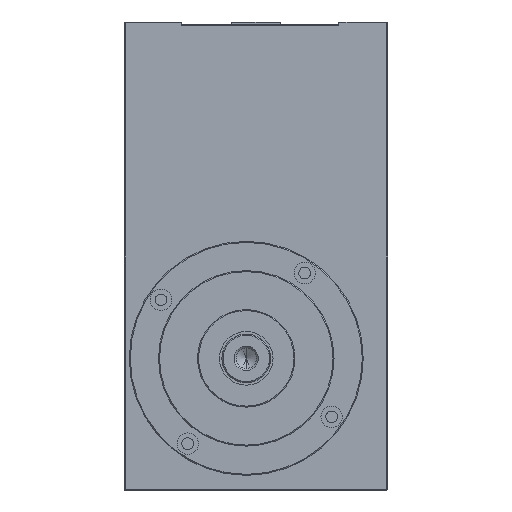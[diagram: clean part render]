
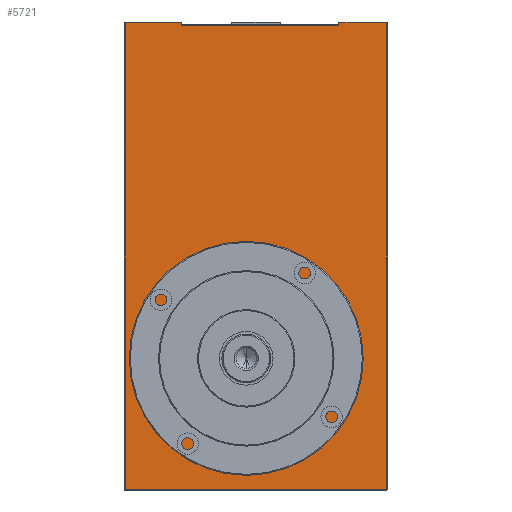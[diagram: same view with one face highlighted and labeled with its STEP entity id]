
A CAD part, left-side view. The second image highlights one B-rep face of the part: STEP entity #5721.
In plain terms, the highlighted planar face has unit normal (-1, 0, 0).
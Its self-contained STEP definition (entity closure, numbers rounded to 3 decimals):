
#354 = LINE ( 'NONE', #4729, #5265 ) ;
#549 = DIRECTION ( 'NONE',  ( 0., 1., 0. ) ) ;
#614 = CARTESIAN_POINT ( 'NONE',  ( 0., 42.3, -0.5 ) ) ;
#715 = VECTOR ( 'NONE', #2724, 1000. ) ;
#914 = DIRECTION ( 'NONE',  ( 0., 0., -1. ) ) ;
#1640 = CARTESIAN_POINT ( 'NONE',  ( 0., 54., -0.2 ) ) ;
#1670 = ORIENTED_EDGE ( 'NONE', *, *, #16651, .T. ) ;
#2109 = ORIENTED_EDGE ( 'NONE', *, *, #13955, .T. ) ;
#2201 = VECTOR ( 'NONE', #549, 1000. ) ;
#2498 = EDGE_CURVE ( 'NONE', #14779, #15254, #12292, .T. ) ;
#2621 = AXIS2_PLACEMENT_3D ( 'NONE', #16761, #6244, #914 ) ;
#2724 = DIRECTION ( 'NONE',  ( 0., 0., 1. ) ) ;
#2748 = DIRECTION ( 'NONE',  ( 0., 0., 1. ) ) ;
#2810 = AXIS2_PLACEMENT_3D ( 'NONE', #14442, #13129, #5005 ) ;
#2889 = CIRCLE ( 'NONE', #12197, 16.7 ) ;
#3366 = VERTEX_POINT ( 'NONE', #3799 ) ;
#3377 = LINE ( 'NONE', #7748, #715 ) ;
#3799 = CARTESIAN_POINT ( 'NONE',  ( 0., 42.3, -0.7 ) ) ;
#3928 = DIRECTION ( 'NONE',  ( 0., 0., -1. ) ) ;
#4467 = FACE_BOUND ( 'NONE', #6552, .T. ) ;
#4581 = VERTEX_POINT ( 'NONE', #9585 ) ;
#4623 = EDGE_CURVE ( 'NONE', #15722, #3366, #14034, .T. ) ;
#4628 = EDGE_LOOP ( 'NONE', ( #16184, #5282, #10591, #12153, #1670, #7056, #5415, #10765 ) ) ;
#4729 = CARTESIAN_POINT ( 'NONE',  ( 0., 54., -95.8 ) ) ;
#5005 = DIRECTION ( 'NONE',  ( 0., 0., -1. ) ) ;
#5168 = PLANE ( 'NONE',  #2810 ) ;
#5265 = VECTOR ( 'NONE', #13889, 1000. ) ;
#5282 = ORIENTED_EDGE ( 'NONE', *, *, #4623, .T. ) ;
#5415 = ORIENTED_EDGE ( 'NONE', *, *, #13145, .T. ) ;
#5600 = VERTEX_POINT ( 'NONE', #8617 ) ;
#5721 = ADVANCED_FACE ( 'NONE', ( #11114, #4467 ), #5168, .F. ) ;
#5812 = DIRECTION ( 'NONE',  ( 0., 0., -1. ) ) ;
#6161 = VECTOR ( 'NONE', #8029, 1000. ) ;
#6244 = DIRECTION ( 'NONE',  ( 1., 0., 0. ) ) ;
#6447 = VECTOR ( 'NONE', #2748, 1000. ) ;
#6552 = EDGE_LOOP ( 'NONE', ( #2109, #13668 ) ) ;
#6816 = CARTESIAN_POINT ( 'NONE',  ( 0., 10., -0.5 ) ) ;
#6953 = DIRECTION ( 'NONE',  ( 0., 1., 0. ) ) ;
#7056 = ORIENTED_EDGE ( 'NONE', *, *, #11511, .T. ) ;
#7254 = EDGE_CURVE ( 'NONE', #3366, #17161, #9798, .T. ) ;
#7264 = DIRECTION ( 'NONE',  ( 0., 0., 1. ) ) ;
#7729 = EDGE_CURVE ( 'NONE', #17161, #11664, #11254, .T. ) ;
#7748 = CARTESIAN_POINT ( 'NONE',  ( 0., 0.2, 0. ) ) ;
#8029 = DIRECTION ( 'NONE',  ( 0., 1., 0. ) ) ;
#8521 = EDGE_CURVE ( 'NONE', #15722, #15254, #13497, .T. ) ;
#8617 = CARTESIAN_POINT ( 'NONE',  ( 0., 53.8, -95.8 ) ) ;
#9085 = VERTEX_POINT ( 'NONE', #14398 ) ;
#9585 = CARTESIAN_POINT ( 'NONE',  ( 0., 29., -52.3 ) ) ;
#9798 = LINE ( 'NONE', #614, #17105 ) ;
#10441 = CARTESIAN_POINT ( 'NONE',  ( 0., 0.2, -0.2 ) ) ;
#10591 = ORIENTED_EDGE ( 'NONE', *, *, #7254, .T. ) ;
#10765 = ORIENTED_EDGE ( 'NONE', *, *, #2498, .T. ) ;
#10940 = LINE ( 'NONE', #16074, #13205 ) ;
#11114 = FACE_OUTER_BOUND ( 'NONE', #4628, .T. ) ;
#11254 = LINE ( 'NONE', #1640, #16060 ) ;
#11511 = EDGE_CURVE ( 'NONE', #5600, #16235, #354, .T. ) ;
#11664 = VERTEX_POINT ( 'NONE', #16920 ) ;
#12153 = ORIENTED_EDGE ( 'NONE', *, *, #7729, .T. ) ;
#12197 = AXIS2_PLACEMENT_3D ( 'NONE', #12273, #16273, #5812 ) ;
#12273 = CARTESIAN_POINT ( 'NONE',  ( 0., 29., -69. ) ) ;
#12292 = LINE ( 'NONE', #12295, #2201 ) ;
#12295 = CARTESIAN_POINT ( 'NONE',  ( 0., 54., -0.2 ) ) ;
#13129 = DIRECTION ( 'NONE',  ( 1., 0., 0. ) ) ;
#13145 = EDGE_CURVE ( 'NONE', #16235, #14779, #3377, .T. ) ;
#13205 = VECTOR ( 'NONE', #3928, 1000. ) ;
#13455 = CARTESIAN_POINT ( 'NONE',  ( 0., 10., -0.7 ) ) ;
#13497 = LINE ( 'NONE', #6816, #6447 ) ;
#13668 = ORIENTED_EDGE ( 'NONE', *, *, #15786, .T. ) ;
#13889 = DIRECTION ( 'NONE',  ( 0., -1., 0. ) ) ;
#13955 = EDGE_CURVE ( 'NONE', #9085, #4581, #16423, .T. ) ;
#14034 = LINE ( 'NONE', #16026, #6161 ) ;
#14398 = CARTESIAN_POINT ( 'NONE',  ( 0., 29., -85.7 ) ) ;
#14431 = CARTESIAN_POINT ( 'NONE',  ( 0., 0.2, -95.8 ) ) ;
#14442 = CARTESIAN_POINT ( 'NONE',  ( 0., 54., 0. ) ) ;
#14457 = CARTESIAN_POINT ( 'NONE',  ( 0., 42.3, -0.2 ) ) ;
#14779 = VERTEX_POINT ( 'NONE', #10441 ) ;
#15254 = VERTEX_POINT ( 'NONE', #17098 ) ;
#15722 = VERTEX_POINT ( 'NONE', #13455 ) ;
#15786 = EDGE_CURVE ( 'NONE', #4581, #9085, #2889, .T. ) ;
#16026 = CARTESIAN_POINT ( 'NONE',  ( 0., 54., -0.7 ) ) ;
#16060 = VECTOR ( 'NONE', #6953, 1000. ) ;
#16074 = CARTESIAN_POINT ( 'NONE',  ( 0., 53.8, 0. ) ) ;
#16184 = ORIENTED_EDGE ( 'NONE', *, *, #8521, .F. ) ;
#16235 = VERTEX_POINT ( 'NONE', #14431 ) ;
#16273 = DIRECTION ( 'NONE',  ( 1., 0., 0. ) ) ;
#16423 = CIRCLE ( 'NONE', #2621, 16.7 ) ;
#16651 = EDGE_CURVE ( 'NONE', #11664, #5600, #10940, .T. ) ;
#16761 = CARTESIAN_POINT ( 'NONE',  ( 0., 29., -69. ) ) ;
#16920 = CARTESIAN_POINT ( 'NONE',  ( 0., 53.8, -0.2 ) ) ;
#17098 = CARTESIAN_POINT ( 'NONE',  ( 0., 10., -0.2 ) ) ;
#17105 = VECTOR ( 'NONE', #7264, 1000. ) ;
#17161 = VERTEX_POINT ( 'NONE', #14457 ) ;
